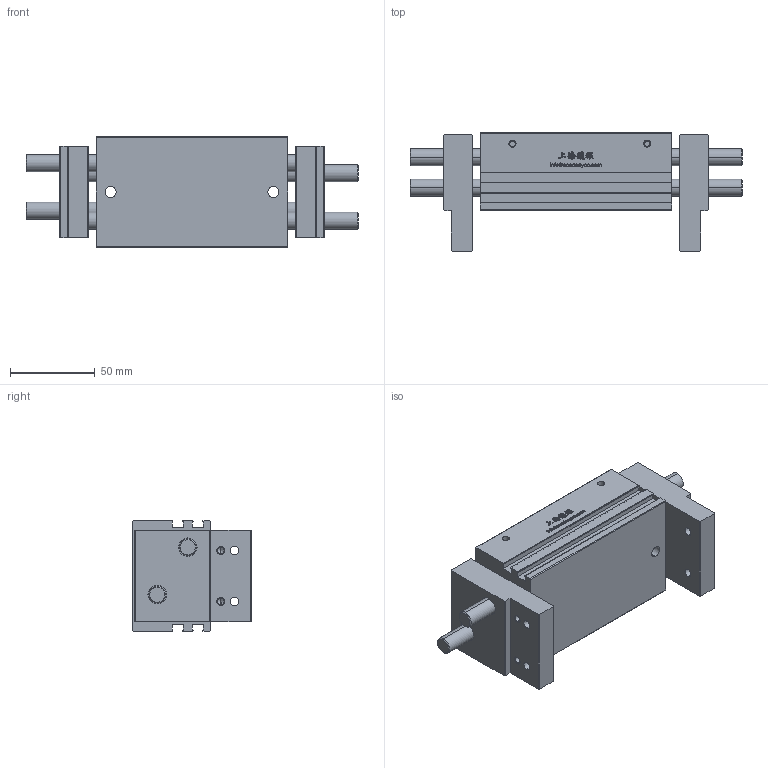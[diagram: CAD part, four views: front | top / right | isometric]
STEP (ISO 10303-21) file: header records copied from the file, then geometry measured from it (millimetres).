
FILE_DESCRIPTION (( 'STEP AP203' ), '1' );
FILE_NAME ('PLE-20-C-40+40-原始檔-組合-W106.04.20.STEP', '2017-04-20T05:53:24', ( 'DanyaoCAD' ), ( '' ), 'SwSTEP 2.0', 'SolidWorks 2016', '' );
FILE_SCHEMA (( 'CONFIG_CONTROL_DESIGN' ));
Length unit declared in the file: millimetre
Products named in the file (3): Corpo; Griffa; PLE-20-C-40+40-原始檔-組合-W106.04.20
Assembly tree (3 placements, depth 2):
  PLE-20-C-40+40-原始檔-組合-W106.04.20
    Corpo
    Griffa  x2
Bounding box: 196 x 70 x 65 mm (x, y, z)
Volume: 441854.9 mm3; surface area: 98119.9 mm2
Topology: 3 solids, 3 shells, 1022 faces, 2825 edges, 1848 vertices
Faces by surface type: bspline 640, plane 238, cylinder 83, cone 61
Entity records: 47838 total; most frequent: CARTESIAN_POINT 26847, ORIENTED_EDGE 5396, EDGE_CURVE 2698, DIRECTION 2245, VERTEX_POINT 1784, B_SPLINE_CURVE_WITH_KNOTS 1292, VECTOR 1257, LINE 1257
